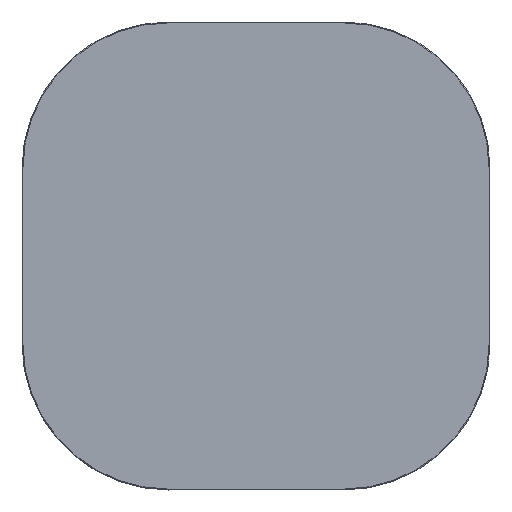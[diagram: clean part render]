
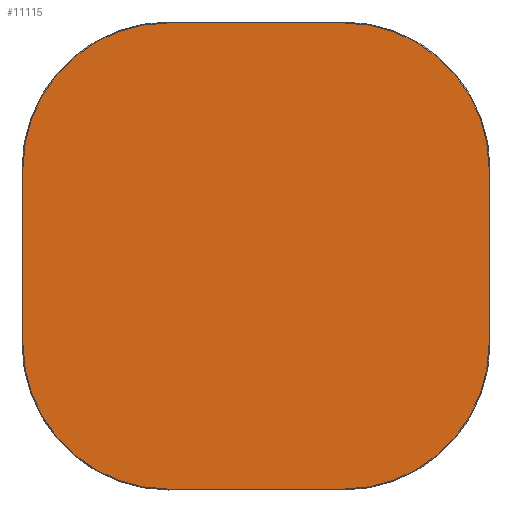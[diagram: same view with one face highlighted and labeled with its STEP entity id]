
A CAD part, top view. The second image highlights one B-rep face of the part: STEP entity #11115.
In plain terms, the highlighted planar face has unit normal (0, 0, 1).
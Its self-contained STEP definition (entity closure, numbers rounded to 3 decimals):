
#11040=CARTESIAN_POINT('',(0.,0.,20.));
#11041=DIRECTION('',(1.,0.,0.));
#11042=DIRECTION('',(0.,0.,1.));
#11043=AXIS2_PLACEMENT_3D('',#11040,#11042,#11041);
#11044=PLANE('',#11043);
#11045=CARTESIAN_POINT('',(-150.,-398.5,20.));
#11046=VERTEX_POINT('',#11045);
#11047=CARTESIAN_POINT('',(150.,-398.5,20.));
#11048=VERTEX_POINT('',#11047);
#11049=CARTESIAN_POINT('',(-150.,-398.5,20.));
#11050=DIRECTION('',(1.,0.,0.));
#11051=VECTOR('',#11050,300.);
#11052=LINE('',#11049,#11051);
#11053=EDGE_CURVE('',#11046,#11048,#11052,.T.);
#11054=ORIENTED_EDGE('E105',*,*,#11053,.T.);
#11055=CARTESIAN_POINT('',(398.5,-150.,20.));
#11056=VERTEX_POINT('',#11055);
#11057=CARTESIAN_POINT('',(150.,-150.,20.));
#11058=DIRECTION('',(0.,-1.,0.));
#11059=DIRECTION('',(0.,0.,1.));
#11060=AXIS2_PLACEMENT_3D('',#11057,#11059,#11058);
#11061=CIRCLE('',#11060,248.5);
#11062=EDGE_CURVE('',#11048,#11056,#11061,.T.);
#11063=ORIENTED_EDGE('E107',*,*,#11062,.T.);
#11064=CARTESIAN_POINT('',(398.5,150.,20.));
#11065=VERTEX_POINT('',#11064);
#11066=CARTESIAN_POINT('',(398.5,-150.,20.));
#11067=DIRECTION('',(0.,1.,0.));
#11068=VECTOR('',#11067,300.);
#11069=LINE('',#11066,#11068);
#11070=EDGE_CURVE('',#11056,#11065,#11069,.T.);
#11071=ORIENTED_EDGE('E109',*,*,#11070,.T.);
#11072=CARTESIAN_POINT('',(150.,398.5,20.));
#11073=VERTEX_POINT('',#11072);
#11074=CARTESIAN_POINT('',(150.,150.,20.));
#11075=DIRECTION('',(1.,0.,0.));
#11076=DIRECTION('',(0.,0.,1.));
#11077=AXIS2_PLACEMENT_3D('',#11074,#11076,#11075);
#11078=CIRCLE('',#11077,248.5);
#11079=EDGE_CURVE('',#11065,#11073,#11078,.T.);
#11080=ORIENTED_EDGE('E111',*,*,#11079,.T.);
#11081=CARTESIAN_POINT('',(-150.,398.5,20.));
#11082=VERTEX_POINT('',#11081);
#11083=CARTESIAN_POINT('',(150.,398.5,20.));
#11084=DIRECTION('',(-1.,0.,0.));
#11085=VECTOR('',#11084,300.);
#11086=LINE('',#11083,#11085);
#11087=EDGE_CURVE('',#11073,#11082,#11086,.T.);
#11088=ORIENTED_EDGE('E113',*,*,#11087,.T.);
#11089=CARTESIAN_POINT('',(-398.5,150.,20.));
#11090=VERTEX_POINT('',#11089);
#11091=CARTESIAN_POINT('',(-150.,150.,20.));
#11092=DIRECTION('',(0.,1.,0.));
#11093=DIRECTION('',(0.,0.,1.));
#11094=AXIS2_PLACEMENT_3D('',#11091,#11093,#11092);
#11095=CIRCLE('',#11094,248.5);
#11096=EDGE_CURVE('',#11082,#11090,#11095,.T.);
#11097=ORIENTED_EDGE('E115',*,*,#11096,.T.);
#11098=CARTESIAN_POINT('',(-398.5,-150.,20.));
#11099=VERTEX_POINT('',#11098);
#11100=CARTESIAN_POINT('',(-398.5,150.,20.));
#11101=DIRECTION('',(0.,-1.,0.));
#11102=VECTOR('',#11101,300.);
#11103=LINE('',#11100,#11102);
#11104=EDGE_CURVE('',#11090,#11099,#11103,.T.);
#11105=ORIENTED_EDGE('E117',*,*,#11104,.T.);
#11106=CARTESIAN_POINT('',(-150.,-150.,20.));
#11107=DIRECTION('',(-1.,0.,0.));
#11108=DIRECTION('',(-0.,0.,1.));
#11109=AXIS2_PLACEMENT_3D('',#11106,#11108,#11107);
#11110=CIRCLE('',#11109,248.5);
#11111=EDGE_CURVE('',#11099,#11046,#11110,.T.);
#11112=ORIENTED_EDGE('E119',*,*,#11111,.T.);
#11113=EDGE_LOOP('',(#11054,#11063,#11071,#11080,#11088,#11097,#11105,#11112));
#11114=FACE_OUTER_BOUND('',#11113,.T.);
#11115=ADVANCED_FACE('F2',(#11114),#11044,.T.);
